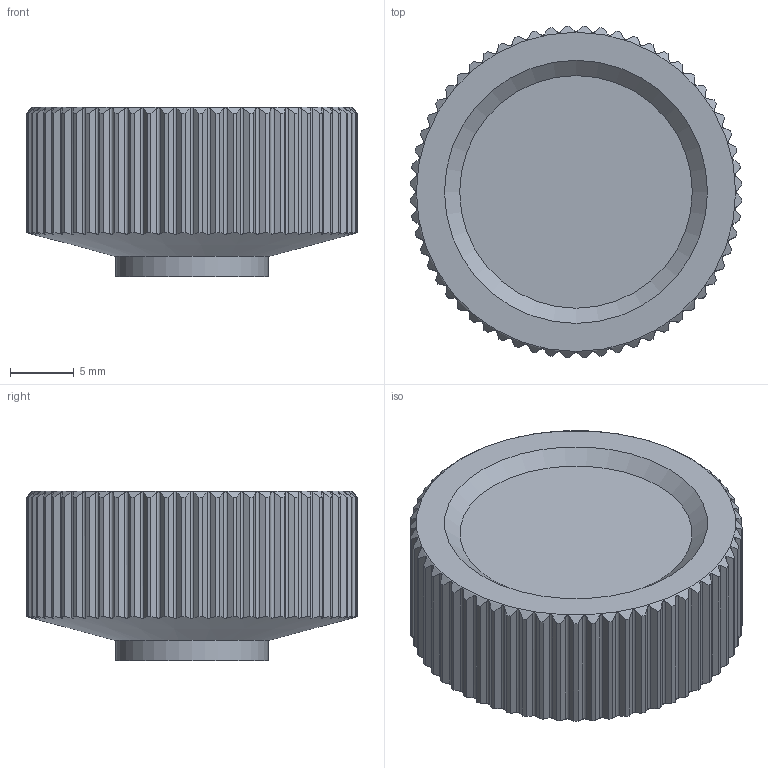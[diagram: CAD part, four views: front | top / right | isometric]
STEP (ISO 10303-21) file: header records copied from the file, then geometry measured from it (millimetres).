
FILE_DESCRIPTION( ('This file contains a STEP AP42 implementation' ,'as created by ZW3D STEP Interface translator.') ,'2;1' );
FILE_NAME( 'Pokretlo radelkowe 26 GW.stp' ,'26 813.133115', (''), ('ZWCAD Software Co.'), 'Version 1.0', 'ZW3D to STEP translator', '' );
FILE_SCHEMA(('AP242_MANAGED_MODEL_BASED_3D_ENGINEERING_MIM_LF { 1 0 10303 442 1 1 4 }'));
Length unit declared in the file: millimetre
Products named in the file (1): 0
Bounding box: 25.98 x 25.98 x 13.3 mm (x, y, z)
Volume: 5373.4 mm3; surface area: 2807.5 mm2
Topology: 2 solids, 2 shells, 254 faces, 742 edges, 494 vertices
Faces by surface type: plane 126, cylinder 124, cone 4
Full cylindrical faces by diameter (mm): 4.2 x1, 9 x2, 12 x1
Entity records: 8942 total; most frequent: CARTESIAN_POINT 2752, ORIENTED_EDGE 1484, DIRECTION 1022, EDGE_CURVE 742, VERTEX_POINT 494, AXIS2_PLACEMENT_3D 387, EDGE_LOOP 258, FACE_OUTER_BOUND 254
